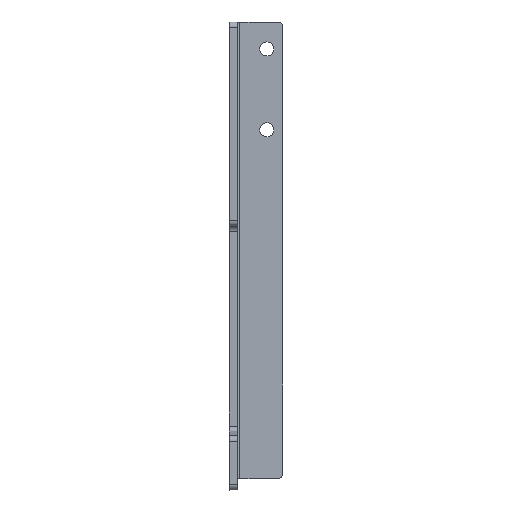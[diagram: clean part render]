
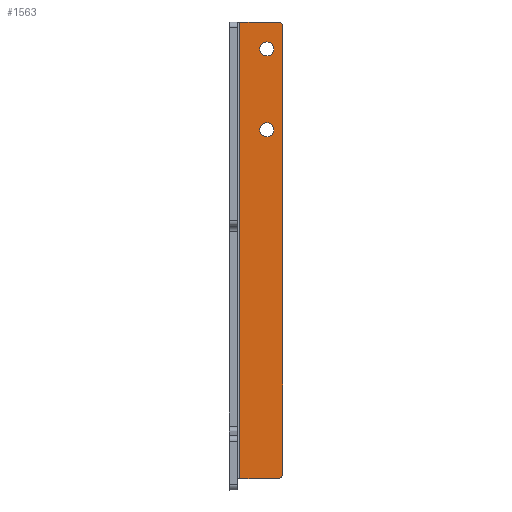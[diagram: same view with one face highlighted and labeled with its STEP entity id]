
A CAD part, left-side view. The second image highlights one B-rep face of the part: STEP entity #1563.
In plain terms, the highlighted planar face has unit normal (-1, 0, 0).
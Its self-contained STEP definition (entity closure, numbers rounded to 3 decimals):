
#494=CARTESIAN_POINT('',(-3.,-4.,-144.248));
#501=CARTESIAN_POINT('',(-3.,-18.,23.));
#502=DIRECTION('',(-1.,0.,0.));
#503=DIRECTION('',(0.,-1.,0.));
#504=AXIS2_PLACEMENT_3D('',#501,#502,#503);
#506=DIRECTION('',(0.,0.,1.));
#507=VECTOR('',#506,165.248);
#508=CARTESIAN_POINT('',(-3.,-20.,-142.248));
#509=LINE('',#508,#507);
#510=CARTESIAN_POINT('',(-3.,-18.,-142.248));
#511=DIRECTION('',(-1.,0.,0.));
#512=DIRECTION('',(0.,0.,-1.));
#513=AXIS2_PLACEMENT_3D('',#510,#511,#512);
#515=DIRECTION('',(0.,1.,0.));
#516=VECTOR('',#515,14.);
#517=CARTESIAN_POINT('',(-3.,-18.,-144.248));
#518=LINE('',#517,#516);
#519=DIRECTION('',(0.,0.,-1.));
#520=VECTOR('',#519,169.248);
#521=CARTESIAN_POINT('',(-3.,-4.,25.));
#522=LINE('',#521,#520);
#523=CARTESIAN_POINT('',(-3.,-14.,15.));
#524=DIRECTION('',(-1.,0.,0.));
#525=DIRECTION('',(0.,-1.,0.));
#526=AXIS2_PLACEMENT_3D('',#523,#524,#525);
#528=CARTESIAN_POINT('',(-3.,-14.,15.));
#529=DIRECTION('',(-1.,0.,0.));
#530=DIRECTION('',(0.,1.,0.));
#531=AXIS2_PLACEMENT_3D('',#528,#529,#530);
#533=CARTESIAN_POINT('',(-3.,-14.,-15.));
#534=DIRECTION('',(-1.,0.,0.));
#535=DIRECTION('',(0.,-1.,0.));
#536=AXIS2_PLACEMENT_3D('',#533,#534,#535);
#538=CARTESIAN_POINT('',(-3.,-14.,-15.));
#539=DIRECTION('',(-1.,0.,0.));
#540=DIRECTION('',(0.,1.,0.));
#541=AXIS2_PLACEMENT_3D('',#538,#539,#540);
#589=DIRECTION('',(0.,1.,0.));
#590=VECTOR('',#589,14.);
#591=CARTESIAN_POINT('',(-3.,-18.,25.));
#592=LINE('',#591,#590);
#727=CARTESIAN_POINT('',(-3.,-4.,25.));
#728=VERTEX_POINT('',#727);
#730=VERTEX_POINT('',#494);
#739=CARTESIAN_POINT('',(-3.,-20.,23.));
#740=VERTEX_POINT('',#739);
#741=CARTESIAN_POINT('',(-3.,-18.,25.));
#742=VERTEX_POINT('',#741);
#747=CARTESIAN_POINT('',(-3.,-18.,-144.248));
#748=VERTEX_POINT('',#747);
#749=CARTESIAN_POINT('',(-3.,-20.,-142.248));
#750=VERTEX_POINT('',#749);
#791=CARTESIAN_POINT('',(-3.,-16.6,15.));
#792=CARTESIAN_POINT('',(-3.,-11.4,15.));
#793=VERTEX_POINT('',#791);
#794=VERTEX_POINT('',#792);
#799=CARTESIAN_POINT('',(-3.,-16.6,-15.));
#800=CARTESIAN_POINT('',(-3.,-11.4,-15.));
#801=VERTEX_POINT('',#799);
#802=VERTEX_POINT('',#800);
#1533=CARTESIAN_POINT('',(-3.,-20.,-250.));
#1534=DIRECTION('',(1.,0.,0.));
#1535=DIRECTION('',(0.,1.,0.));
#1536=AXIS2_PLACEMENT_3D('',#1533,#1534,#1535);
#1537=PLANE('',#1536);
#1539=ORIENTED_EDGE('',*,*,#1538,.F.);
#1541=ORIENTED_EDGE('',*,*,#1540,.F.);
#1543=ORIENTED_EDGE('',*,*,#1542,.F.);
#1545=ORIENTED_EDGE('',*,*,#1544,.T.);
#1546=ORIENTED_EDGE('',*,*,#1528,.F.);
#1548=ORIENTED_EDGE('',*,*,#1547,.F.);
#1549=EDGE_LOOP('',(#1539,#1541,#1543,#1545,#1546,#1548));
#1550=FACE_OUTER_BOUND('',#1549,.F.);
#1552=ORIENTED_EDGE('',*,*,#1551,.T.);
#1554=ORIENTED_EDGE('',*,*,#1553,.T.);
#1555=EDGE_LOOP('',(#1552,#1554));
#1556=FACE_BOUND('',#1555,.F.);
#1558=ORIENTED_EDGE('',*,*,#1557,.T.);
#1560=ORIENTED_EDGE('',*,*,#1559,.T.);
#1561=EDGE_LOOP('',(#1558,#1560));
#1562=FACE_BOUND('',#1561,.F.);
#1563=ADVANCED_FACE('',(#1550,#1556,#1562),#1537,.F.);
#505=CIRCLE('',#504,2.);
#514=CIRCLE('',#513,2.);
#527=CIRCLE('',#526,2.6);
#532=CIRCLE('',#531,2.6);
#537=CIRCLE('',#536,2.6);
#542=CIRCLE('',#541,2.6);
#1528=EDGE_CURVE('',#728,#730,#522,.T.);
#1538=EDGE_CURVE('',#740,#742,#505,.T.);
#1540=EDGE_CURVE('',#750,#740,#509,.T.);
#1542=EDGE_CURVE('',#748,#750,#514,.T.);
#1544=EDGE_CURVE('',#748,#730,#518,.T.);
#1547=EDGE_CURVE('',#742,#728,#592,.T.);
#1551=EDGE_CURVE('',#793,#794,#527,.T.);
#1553=EDGE_CURVE('',#794,#793,#532,.T.);
#1557=EDGE_CURVE('',#801,#802,#537,.T.);
#1559=EDGE_CURVE('',#802,#801,#542,.T.);
